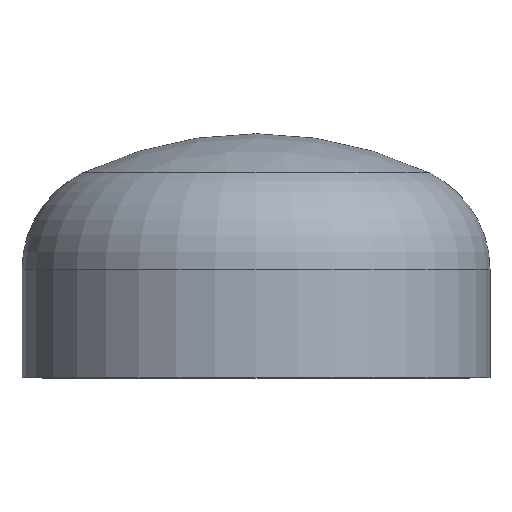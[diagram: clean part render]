
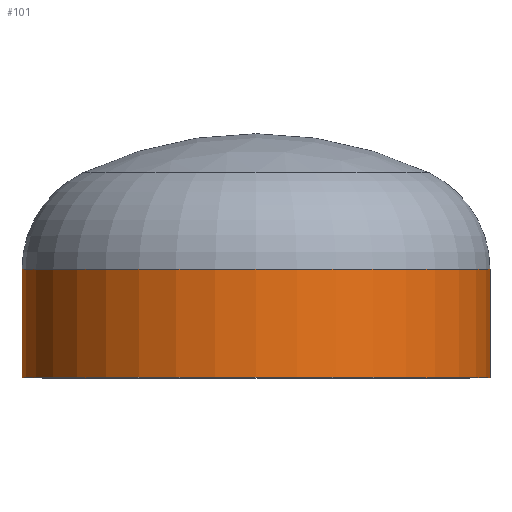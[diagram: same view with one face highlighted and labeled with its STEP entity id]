
A CAD part, top view. The second image highlights one B-rep face of the part: STEP entity #101.
In plain terms, the highlighted cylindrical face has radius 161.95 mm (diameter 323.9 mm), a partial arc.
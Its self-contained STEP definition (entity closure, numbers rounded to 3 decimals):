
#5 = EDGE_LOOP ( 'NONE', ( #47, #16, #136, #146 ) ) ;
#12 = VECTOR ( 'NONE', #342, 1000. ) ;
#16 = ORIENTED_EDGE ( 'NONE', *, *, #85, .T. ) ;
#47 = ORIENTED_EDGE ( 'NONE', *, *, #90, .T. ) ;
#51 = AXIS2_PLACEMENT_3D ( 'NONE', #196, #325, #207 ) ;
#52 = DIRECTION ( 'NONE',  ( 0., -1., 0. ) ) ;
#60 = VERTEX_POINT ( 'NONE', #245 ) ;
#74 = AXIS2_PLACEMENT_3D ( 'NONE', #328, #201, #215 ) ;
#81 = VERTEX_POINT ( 'NONE', #343 ) ;
#85 = EDGE_CURVE ( 'NONE', #60, #81, #250, .T. ) ;
#90 = EDGE_CURVE ( 'NONE', #144, #60, #182, .T. ) ;
#101 = ADVANCED_FACE ( 'NONE', ( #230 ), #291, .T. ) ;
#126 = VERTEX_POINT ( 'NONE', #224 ) ;
#136 = ORIENTED_EDGE ( 'NONE', *, *, #374, .F. ) ;
#144 = VERTEX_POINT ( 'NONE', #186 ) ;
#146 = ORIENTED_EDGE ( 'NONE', *, *, #390, .F. ) ;
#179 = LINE ( 'NONE', #401, #12 ) ;
#182 = CIRCLE ( 'NONE', #74, 161.95 ) ;
#186 = CARTESIAN_POINT ( 'NONE',  ( 161.95, 75., 0. ) ) ;
#196 = CARTESIAN_POINT ( 'NONE',  ( 0., 0., 0. ) ) ;
#201 = DIRECTION ( 'NONE',  ( 0., -1., 0. ) ) ;
#207 = DIRECTION ( 'NONE',  ( 1., 0., 0. ) ) ;
#215 = DIRECTION ( 'NONE',  ( 1., 0., 0. ) ) ;
#223 = AXIS2_PLACEMENT_3D ( 'NONE', #279, #52, #294 ) ;
#224 = CARTESIAN_POINT ( 'NONE',  ( 161.95, 0., 0. ) ) ;
#230 = FACE_OUTER_BOUND ( 'NONE', #5, .T. ) ;
#231 = CARTESIAN_POINT ( 'NONE',  ( -161.95, 0., 0. ) ) ;
#245 = CARTESIAN_POINT ( 'NONE',  ( -161.95, 75., 0. ) ) ;
#250 = LINE ( 'NONE', #231, #302 ) ;
#279 = CARTESIAN_POINT ( 'NONE',  ( 0., 0., 0. ) ) ;
#291 = CYLINDRICAL_SURFACE ( 'NONE', #51, 161.95 ) ;
#294 = DIRECTION ( 'NONE',  ( 1., 0., 0. ) ) ;
#302 = VECTOR ( 'NONE', #335, 1000. ) ;
#316 = CIRCLE ( 'NONE', #223, 161.95 ) ;
#325 = DIRECTION ( 'NONE',  ( 0., -1., 0. ) ) ;
#328 = CARTESIAN_POINT ( 'NONE',  ( 0., 75., 0. ) ) ;
#335 = DIRECTION ( 'NONE',  ( 0., -1., 0. ) ) ;
#342 = DIRECTION ( 'NONE',  ( 0., -1., 0. ) ) ;
#343 = CARTESIAN_POINT ( 'NONE',  ( -161.95, 0., 0. ) ) ;
#374 = EDGE_CURVE ( 'NONE', #126, #81, #316, .T. ) ;
#390 = EDGE_CURVE ( 'NONE', #144, #126, #179, .T. ) ;
#401 = CARTESIAN_POINT ( 'NONE',  ( 161.95, 0., 0. ) ) ;
